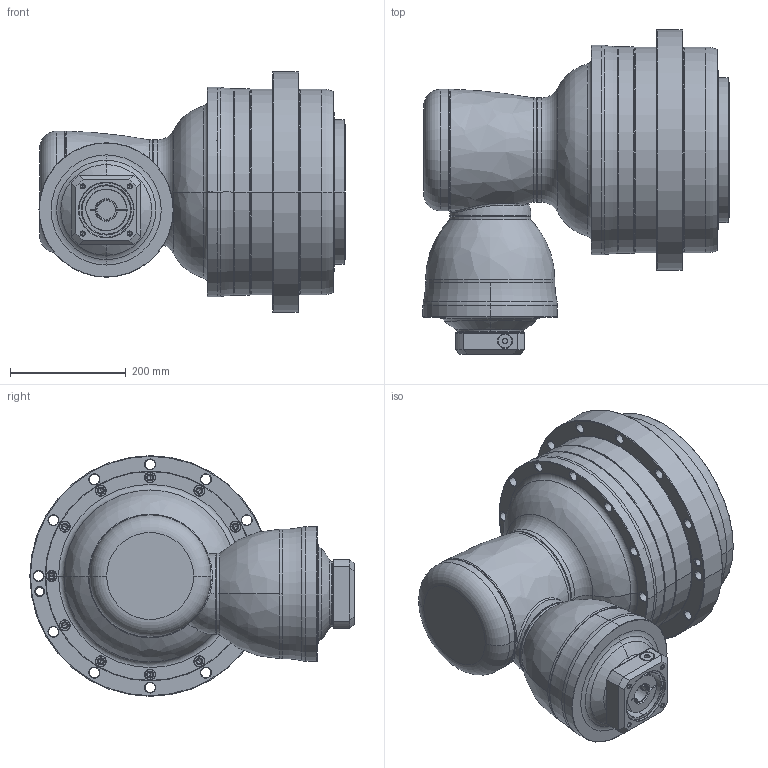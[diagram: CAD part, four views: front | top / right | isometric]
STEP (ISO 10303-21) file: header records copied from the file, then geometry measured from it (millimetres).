
FILE_DESCRIPTION((''),'2;1');
FILE_NAME('AHK355_4ST_32-P0409700101_ASM','2016-12-08T',('d01943'),(''),'PRO/ENGINEER BY PARAMETRIC TECHNOLOGY CORPORATION, 2008410','PRO/ENGINEER BY PARAMETRIC TECHNOLOGY CORPORATION, 2008410','');
FILE_SCHEMA(('CONFIG_CONTROL_DESIGN'));
Length unit declared in the file: millimetre
Products named in the file (12): P1008600002; P1821100001; P0276100003; P0357100003; P1315600001; P1007600001; P1317600201; P0409700101; P0503700010; P0912502201; 21711418017; AHK355_4ST_32-P0409700101_ASM
Assembly tree (11 placements, depth 2):
  AHK355_4ST_32-P0409700101_ASM
    P1008600002
    P1821100001
    P0276100003
    P0357100003
    P1315600001
    P1007600001
    P1317600201
    P0409700101
    P0503700010
    P0912502201
    21711418017
Bounding box: 528 x 559.5 x 415 mm (x, y, z)
Volume: 36574017.5 mm3; surface area: 1759980.5 mm2
Topology: 12 solids, 12 shells, 1028 faces, 2299 edges, 1317 vertices
Faces by surface type: cone 368, cylinder 368, torus 128, plane 125, bspline 37, sphere 2
Entity records: 34607 total; most frequent: CARTESIAN_POINT 11218, DIRECTION 5392, ORIENTED_EDGE 4422, AXIS2_PLACEMENT_3D 2295, EDGE_CURVE 2211, VERTEX_POINT 1317, CIRCLE 1281, EDGE_LOOP 1238
